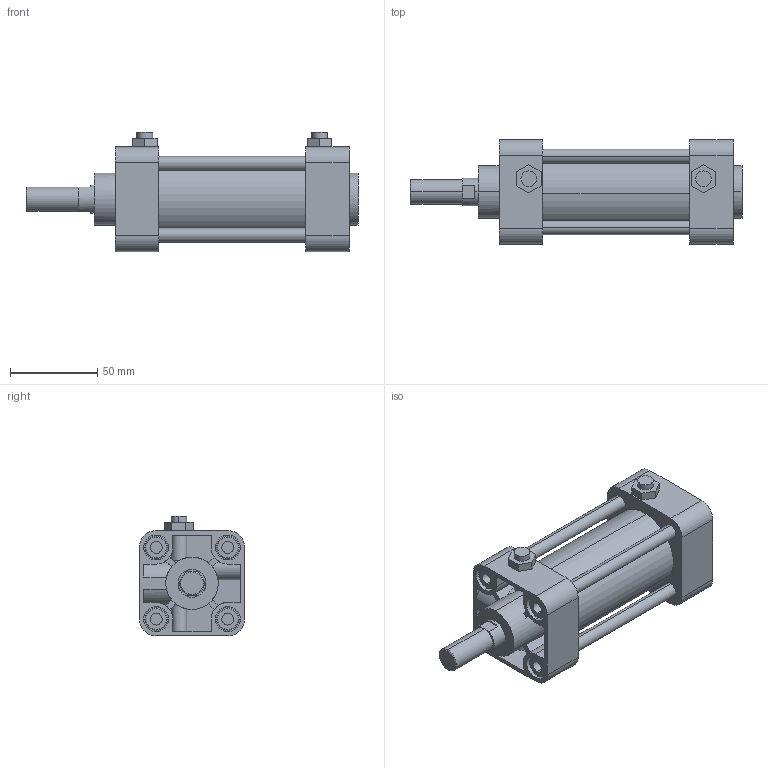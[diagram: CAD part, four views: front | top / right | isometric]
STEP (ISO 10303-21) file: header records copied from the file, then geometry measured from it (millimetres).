
FILE_DESCRIPTION (( 'STEP AP203' ), '1' );
FILE_NAME ('KG2-40-50-N.STEP', '2016-04-01T08:09:56', ( '' ), ( '' ), 'SwSTEP 2.0', 'SolidWorks 2014', '' );
FILE_SCHEMA (( 'CONFIG_CONTROL_DESIGN' ));
Length unit declared in the file: millimetre
Products named in the file (6): KGLH2-40-50; KG2-40-50-N; KG2-40-After
Assembly tree (15 placements, depth 2):
  KG2-40-50-N
    KG2-40-After
    KGLH2-40-50
    (unnamed)
    (unnamed)  x4
    (unnamed)  x8
Bounding box: 190 x 60 x 68.3 mm (x, y, z)
Volume: 304974 mm3; surface area: 84222.4 mm2
Topology: 15 solids, 20 shells, 329 faces, 757 edges, 483 vertices
Faces by surface type: plane 141, cylinder 130, torus 32, cone 26
Entity records: 8165 total; most frequent: CARTESIAN_POINT 1612, DIRECTION 1235, ORIENTED_EDGE 1134, EDGE_CURVE 567, AXIS2_PLACEMENT_3D 461, VERTEX_POINT 373, VECTOR 313, LINE 313
